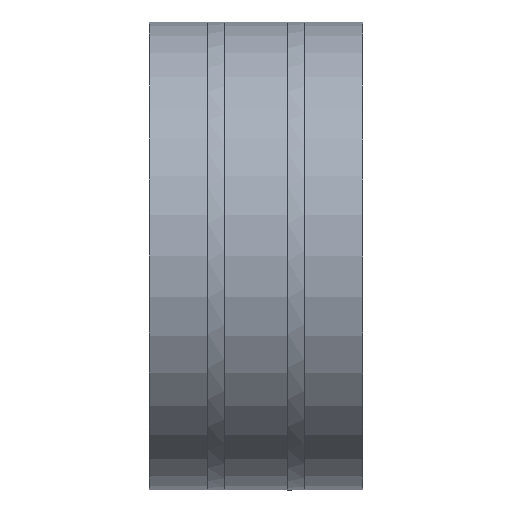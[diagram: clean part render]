
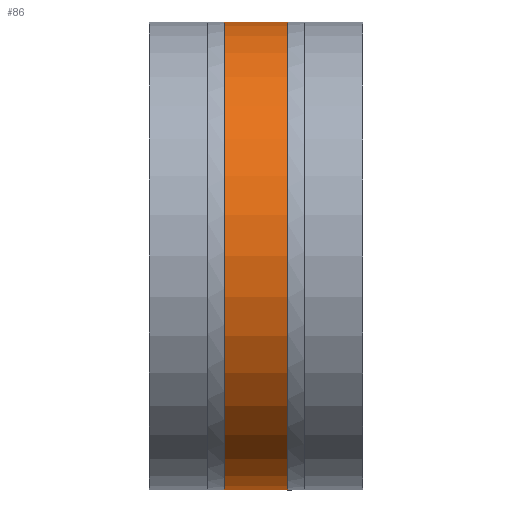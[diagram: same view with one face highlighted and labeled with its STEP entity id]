
A CAD part, front view. The second image highlights one B-rep face of the part: STEP entity #86.
In plain terms, the highlighted cylindrical face has radius 202.5 mm (diameter 405 mm), a partial arc.
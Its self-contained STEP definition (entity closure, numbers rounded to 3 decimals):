
#54 = EDGE_LOOP ( 'NONE', ( #12640, #12555, #12426, #12342 ) ) ;
#86 = ADVANCED_FACE ( 'NONE', ( #455 ), #456, .T. ) ;
#455 = FACE_OUTER_BOUND ( 'NONE', #54, .T. ) ;
#456 = CYLINDRICAL_SURFACE ( 'NONE', #457, 202.5 ) ;
#457 = AXIS2_PLACEMENT_3D ( 'NONE', #458, #459, #460 ) ;
#458 = CARTESIAN_POINT ( 'NONE',  ( -67., 0., 0. ) ) ;
#459 = DIRECTION ( 'NONE',  ( 1., 0., 0. ) ) ;
#460 = DIRECTION ( 'NONE',  ( 0., 0., -1. ) ) ;
#3985 = LINE ( 'NONE', #3986, #3987 ) ;
#3986 = CARTESIAN_POINT ( 'NONE',  ( -67., 0., -202.5 ) ) ;
#3987 = VECTOR ( 'NONE', #3988, 1000. ) ;
#3988 = DIRECTION ( 'NONE',  ( 1., 0., 0. ) ) ;
#4187 = CIRCLE ( 'NONE', #4188, 202.5 ) ;
#4188 = AXIS2_PLACEMENT_3D ( 'NONE', #4189, #4190, #4191 ) ;
#4189 = CARTESIAN_POINT ( 'NONE',  ( -60.938, 0., 0. ) ) ;
#4190 = DIRECTION ( 'NONE',  ( 1., 0., 0. ) ) ;
#4191 = DIRECTION ( 'NONE',  ( 0., 0., -1. ) ) ;
#4956 = CARTESIAN_POINT ( 'NONE',  ( -6.062, 0., -202.5 ) ) ;
#6608 = EDGE_CURVE ( 'NONE', #7525, #12136, #8069, .T. ) ;
#6767 = CARTESIAN_POINT ( 'NONE',  ( -6.062, 0., 202.5 ) ) ;
#6861 = EDGE_CURVE ( 'NONE', #11953, #12136, #8233, .T. ) ;
#7525 = VERTEX_POINT ( 'NONE', #8769 ) ;
#7756 = VERTEX_POINT ( 'NONE', #9185 ) ;
#8069 = LINE ( 'NONE', #8070, #8071 ) ;
#8070 = CARTESIAN_POINT ( 'NONE',  ( -67., 0., 202.5 ) ) ;
#8071 = VECTOR ( 'NONE', #8072, 1000. ) ;
#8072 = DIRECTION ( 'NONE',  ( 1., 0., 0. ) ) ;
#8233 = CIRCLE ( 'NONE', #8234, 202.5 ) ;
#8234 = AXIS2_PLACEMENT_3D ( 'NONE', #8235, #8236, #8237 ) ;
#8235 = CARTESIAN_POINT ( 'NONE',  ( -6.062, 0., 0. ) ) ;
#8236 = DIRECTION ( 'NONE',  ( -1., 0., 0. ) ) ;
#8237 = DIRECTION ( 'NONE',  ( 0., 0., 1. ) ) ;
#8769 = CARTESIAN_POINT ( 'NONE',  ( -60.938, 0., 202.5 ) ) ;
#9185 = CARTESIAN_POINT ( 'NONE',  ( -60.938, 0., -202.5 ) ) ;
#11810 = EDGE_CURVE ( 'NONE', #7756, #11953, #3985, .T. ) ;
#11829 = EDGE_CURVE ( 'NONE', #7525, #7756, #4187, .T. ) ;
#11953 = VERTEX_POINT ( 'NONE', #4956 ) ;
#12136 = VERTEX_POINT ( 'NONE', #6767 ) ;
#12342 = ORIENTED_EDGE ( 'NONE', *, *, #6861, .T. ) ;
#12426 = ORIENTED_EDGE ( 'NONE', *, *, #11810, .T. ) ;
#12555 = ORIENTED_EDGE ( 'NONE', *, *, #11829, .T. ) ;
#12640 = ORIENTED_EDGE ( 'NONE', *, *, #6608, .F. ) ;
